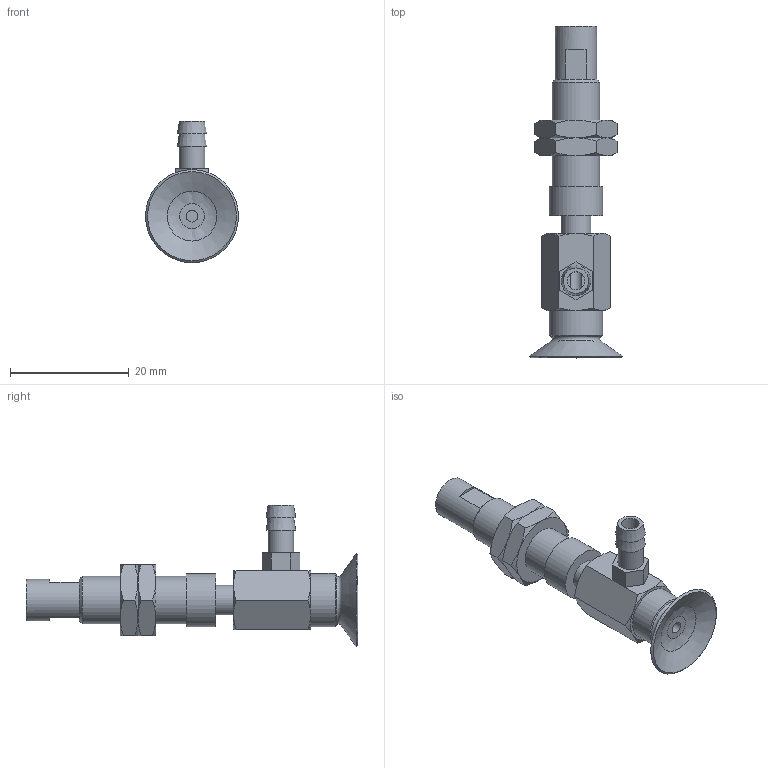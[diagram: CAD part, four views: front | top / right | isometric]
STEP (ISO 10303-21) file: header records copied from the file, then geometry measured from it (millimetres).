
FILE_DESCRIPTION(('STEP AP203'),'1');
FILE_NAME('-T.stp','2025-04-09T06:58:44',(' '),(' '),'Spatial InterOp 3D',' ',' ');
FILE_SCHEMA(('CONFIG_CONTROL_DESIGN'));
Length unit declared in the file: millimetre
Products named in the file (7): BNABPFYS-15A-3-※-T; CONNECTOR-15A-3; Nut-15A-3-s; NAPFTS-15A-3-FBODY; NAPFTS-15A-3-MBODY; BPFG-15A-※; T
Assembly tree (7 placements, depth 2):
  BNABPFYS-15A-3-※-T
    CONNECTOR-15A-3
    Nut-15A-3-s  x2
    NAPFTS-15A-3-FBODY
    NAPFTS-15A-3-MBODY
    BPFG-15A-※
    T
Bounding box: 15.7 x 56 x 23.85 mm (x, y, z)
Volume: 3674.6 mm3; surface area: 4662.3 mm2
Topology: 7 solids, 7 shells, 147 faces, 305 edges, 185 vertices
Faces by surface type: plane 63, cone 54, cylinder 20, torus 9, bspline 1
Full cylindrical faces by diameter (mm): 2 x2, 3 x1, 4 x2, 4.134 x2, 4.3 x1, 5 x4, 6 x2, 7 x1, 7.188 x2, 8 x1, 9 x2
Entity records: 3613 total; most frequent: CARTESIAN_POINT 863, DIRECTION 508, ORIENTED_EDGE 412, AXIS2_PLACEMENT_3D 225, EDGE_CURVE 206, EDGE_LOOP 192, FACE_OUTER_BOUND 153, VERTEX_POINT 150
